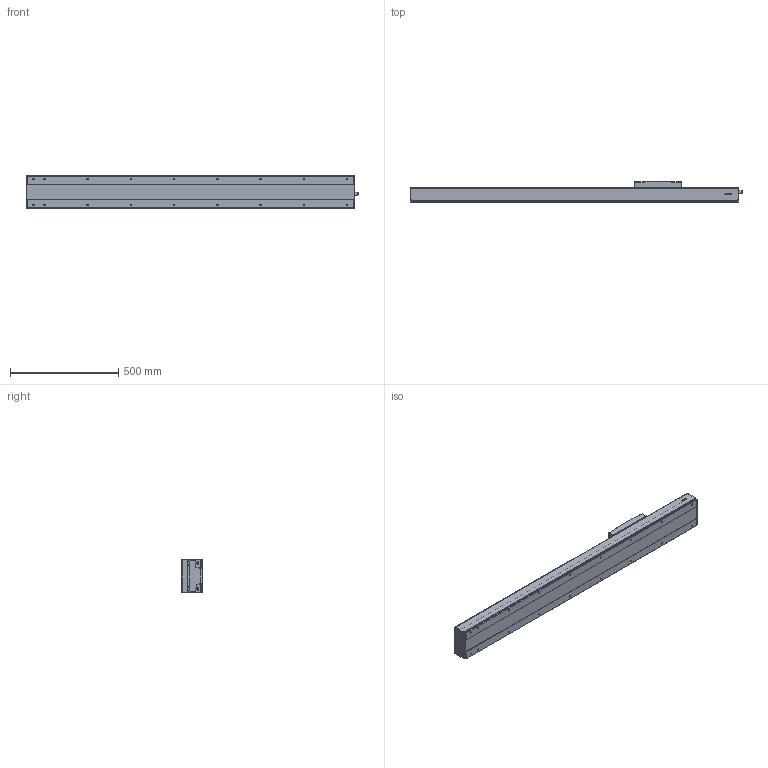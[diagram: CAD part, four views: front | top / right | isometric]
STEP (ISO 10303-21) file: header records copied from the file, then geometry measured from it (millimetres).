
FILE_DESCRIPTION(/* description */ (''),/* implementation_level */ '2;1');
FILE_NAME(/* name */ 'D:\混合母檔20191031\混和母檔\混和母檔\bin\Debug\Download\3D\KS150-10C-1000AFI\KS150-10C-1000AFI.stp',/* time_stamp */ '2019-11-04T15:52:06+08:00',/* author */ ('user'),/* organization */ (''),/* preprocessor_version */ 'ST-DEVELOPER v16.13',/* originating_system */ 'Autodesk Inventor 2018',/* authorisation */ '');
FILE_SCHEMA (('AUTOMOTIVE_DESIGN { 1 0 10303 214 3 1 1 }'));
Length unit declared in the file: millimetre
Products named in the file (3): KS150-10C-1000AFI; KS150-FI; KS150-SL
Assembly tree (2 placements, depth 2):
  KS150-10C-1000AFI
    KS150-FI
    KS150-SL
Bounding box: 1535.05 x 100 x 152.4 mm (x, y, z)
Volume: 6232584.2 mm3; surface area: 1499390.8 mm2
Topology: 4 solids, 8 shells, 1249 faces, 3295 edges, 2136 vertices
Faces by surface type: plane 615, cone 232, cylinder 194, bspline 136, torus 68, sphere 4
Full cylindrical faces by diameter (mm): 3.242 x12, 3.571 x8, 4.134 x4, 4.5 x8, 4.509 x6, 4.917 x4, 5 x18, 5.5 x12, 6 x2, 6.647 x22, 8 x4, 8.4 x8, 9.3 x12, 10.437 x1, 12 x1, 14 x1, 15 x1, 15.538 x1, 23 x1, 46 x1, 50 x1
Entity records: 41128 total; most frequent: CARTESIAN_POINT 12744, ORIENTED_EDGE 5856, DIRECTION 5457, EDGE_CURVE 2928, VERTEX_POINT 2024, AXIS2_PLACEMENT_3D 1896, LINE 1665, VECTOR 1665
